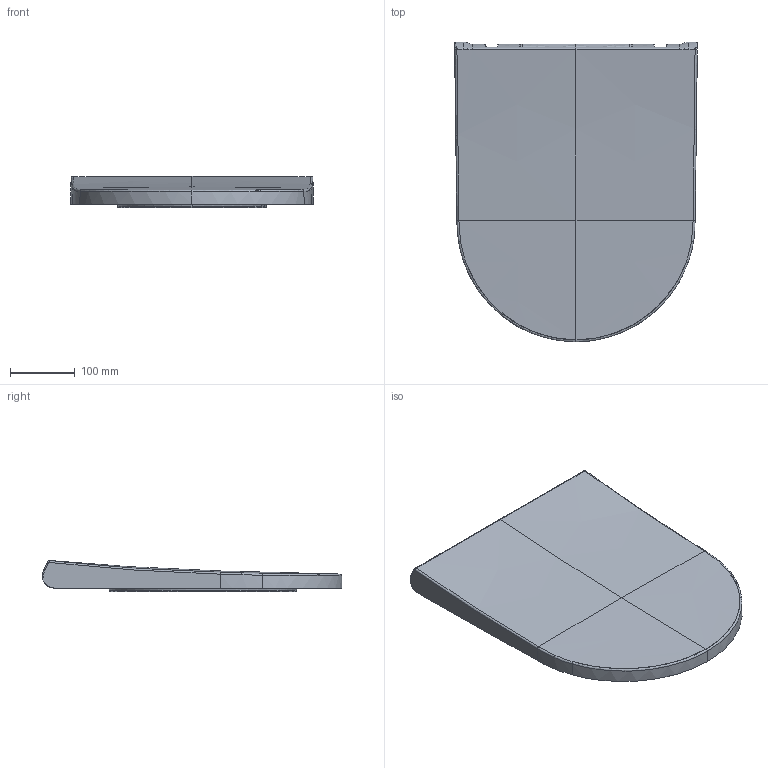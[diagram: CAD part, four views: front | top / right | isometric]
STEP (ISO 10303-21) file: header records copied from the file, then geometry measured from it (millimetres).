
FILE_DESCRIPTION(/* description */ (''),/* implementation_level */ '2;1');
FILE_NAME(/* name */ '002249',/* time_stamp */ '2022-11-04T10:21:59+01:00',/* author */ (''),/* organization */ (''),/* preprocessor_version */ 'ST-DEVELOPER v15',/* originating_system */ '',/* authorisation */ '');
FILE_SCHEMA (('AUTOMOTIVE_DESIGN'));
Length unit declared in the file: millimetre
Products named in the file (1): Document
Bounding box: 373.43 x 461.23 x 47.76 mm (x, y, z)
Surface area: 594614.2 mm2 (no closed solid volume)
Topology: 0 solids, 2 shells, 660 faces, 1825 edges, 1009 vertices
Faces by surface type: bspline 594, plane 66
Entity records: 58797 total; most frequent: CARTESIAN_POINT 48045, ORIENTED_EDGE 3281, EDGE_CURVE 1825, B_SPLINE_CURVE_WITH_KNOTS 1825, VERTEX_POINT 1009, EDGE_LOOP 667, ADVANCED_FACE 659, FACE_OUTER_BOUND 659
